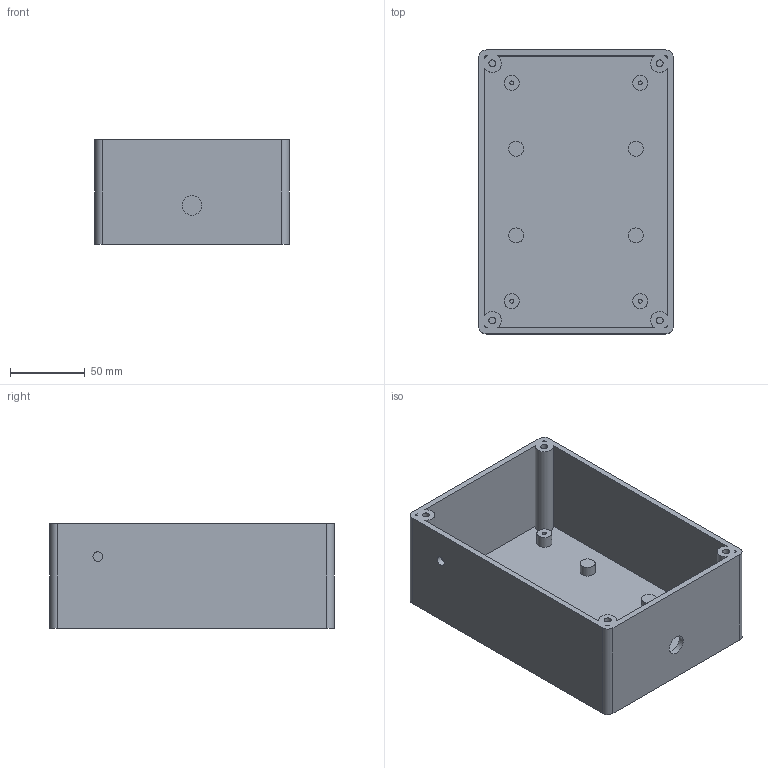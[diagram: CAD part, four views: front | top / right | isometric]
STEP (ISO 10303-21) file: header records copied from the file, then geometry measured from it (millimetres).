
FILE_DESCRIPTION(('Open CASCADE Model'),'2;1');
FILE_NAME('Open CASCADE Shape Model','2026-10-07T15:46:23',('Author'),( 'Open CASCADE'),'Open CASCADE STEP processor 7.9','Open CASCADE 7.9' ,'Unknown');
FILE_SCHEMA(('AUTOMOTIVE_DESIGN { 1 0 10303 214 1 1 1 1 }'));
Length unit declared in the file: millimetre
Products named in the file (1): Open CASCADE STEP translator 7.9 1
Bounding box: 130 x 190 x 70 mm (x, y, z)
Volume: 292766.2 mm3; surface area: 138901.9 mm2
Topology: 1 solids, 1 shells, 81 faces, 162 edges, 108 vertices
Faces by surface type: plane 43, cylinder 38
Full cylindrical faces by diameter (mm): 2.6 x4, 4.6 x8, 6.5 x1, 10 x8, 13.2 x1
Entity records: 4308 total; most frequent: CARTESIAN_POINT 912, DIRECTION 650, ORIENTED_EDGE 324, PCURVE 324, DEFINITIONAL_REPRESENTATION 324, LINE 290, VECTOR 290, EDGE_CURVE 162
